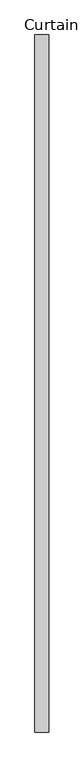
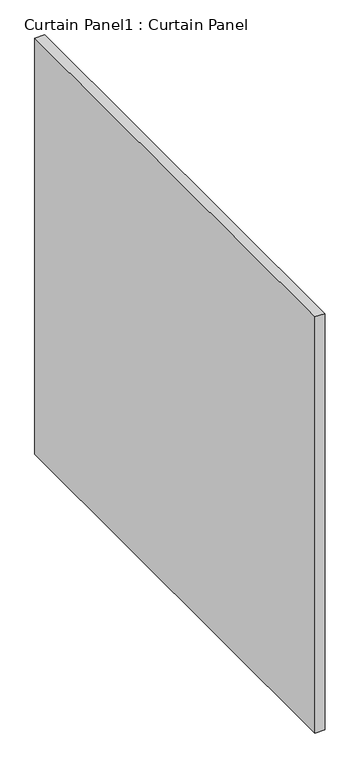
"""IFC4 building model written with IfcOpenShell, lengths in millimetres: plate geometry, Curtain Panel1 : Curtain Panel."""

from ifc_helpers import new_model, si_unit, frame, origin, place, context, project, spatial, polyline, outline, extrude, source, transform, mapped, element, save


def curtain_panel1_curtain_panel_f333f51b(model_context):
    return source(origin(), model_context, "Body", "SweptSolid", [
        extrude(outline(polyline([(-28721.5971749, 7767.9994331), (-28721.5971749, 9044.3494331), (-28696.1971749, 9044.3494331), (-28696.1971749, 7767.9994331), (-28721.5971749, 7767.9994331)])), frame((0.0, 0.0, 4876.8), z_axis=(0.0, 0.0, 1.0), x_axis=(1.0, 0.0, 0.0)), (0.0, 0.0, 1.0), 1155.7),
    ])


if __name__ == "__main__":
    model = new_model("IFC4")
    model_context = context("Model", 3, world=origin())
    ifc_project = project(units=[si_unit("LENGTHUNIT", "METRE", prefix="MILLI")], contexts=[model_context])
    site = spatial("IfcSite", under=ifc_project)
    building = spatial("IfcBuilding", under=site)
    placement = place(None, origin())
    curtain_panel1_curtain_panel_shape = curtain_panel1_curtain_panel_f333f51b(model_context)
    element("IfcPlate", 1, ObjectType="Curtain Panel1 : Curtain Panel", at=placement, inside=building, context=model_context, shape_type="MappedRepresentation", body=[
        mapped(curtain_panel1_curtain_panel_shape, transform((0.0, 0.0, 0.0), x_axis=(1.0, 0.0, 0.0), y_axis=(0.0, 1.0, 0.0), z_axis=(0.0, 0.0, 1.0))),
    ])
    save(model, "model.ifc")
